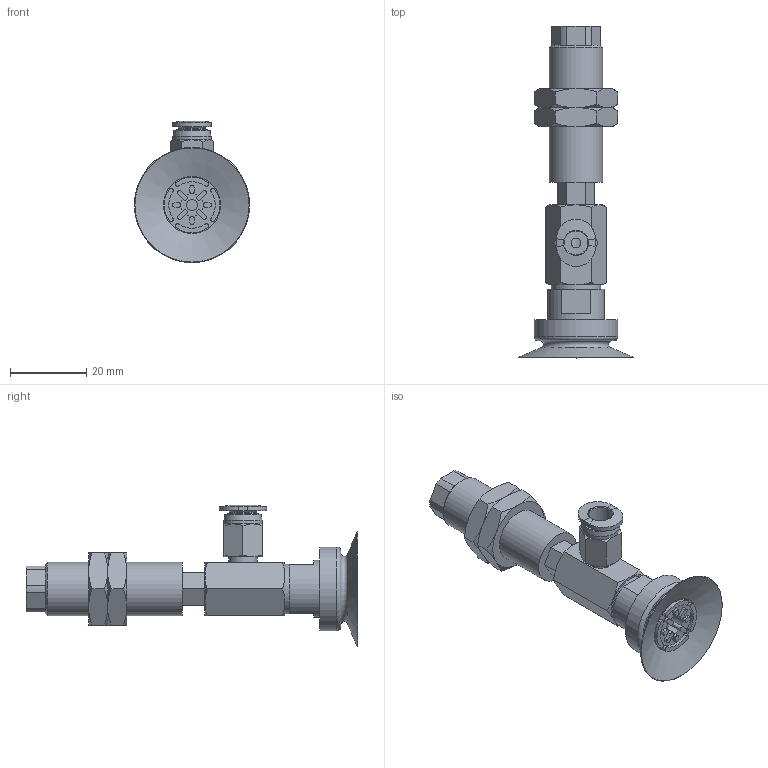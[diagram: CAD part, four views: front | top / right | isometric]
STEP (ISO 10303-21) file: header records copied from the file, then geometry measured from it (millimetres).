
FILE_DESCRIPTION(('STEP AP203'),'1');
FILE_NAME('-O.stp','2025-03-13T08:04:43',(' '),(' '),'Spatial InterOp 3D',' ',' ');
FILE_SCHEMA(('CONFIG_CONTROL_DESIGN'));
Length unit declared in the file: millimetre
Products named in the file (7): BNABPAYH-30-6-※-O; CONNECTOR-30-6-PA; Nut-25-S; NAPAYH-30-6--F; NAPAYH-30-6--M; BPAG-30-※; PC-C_06-M5
Assembly tree (7 placements, depth 2):
  BNABPAYH-30-6-※-O
    CONNECTOR-30-6-PA
    Nut-25-S  x2
    NAPAYH-30-6--F
    NAPAYH-30-6--M
    BPAG-30-※
    PC-C_06-M5
Bounding box: 30.3 x 87.2 x 37.13 mm (x, y, z)
Volume: 15393.3 mm3; surface area: 12565.9 mm2
Topology: 6 solids, 9 shells, 259 faces, 586 edges, 367 vertices
Faces by surface type: plane 116, cone 67, cylinder 65, torus 4, bspline 4, revolution 3
Full cylindrical faces by diameter (mm): 3 x2, 4 x2, 4.134 x2, 4.6 x1, 4.917 x1, 5 x2, 6 x1, 7 x1, 7.4 x1, 8.2 x1, 10 x1, 12.917 x2, 13 x1, 14 x1, 15 x1, 22 x1
Entity records: 7280 total; most frequent: CARTESIAN_POINT 1814, DIRECTION 1085, ORIENTED_EDGE 982, EDGE_CURVE 493, AXIS2_PLACEMENT_3D 434, VERTEX_POINT 335, EDGE_LOOP 312, LINE 214
